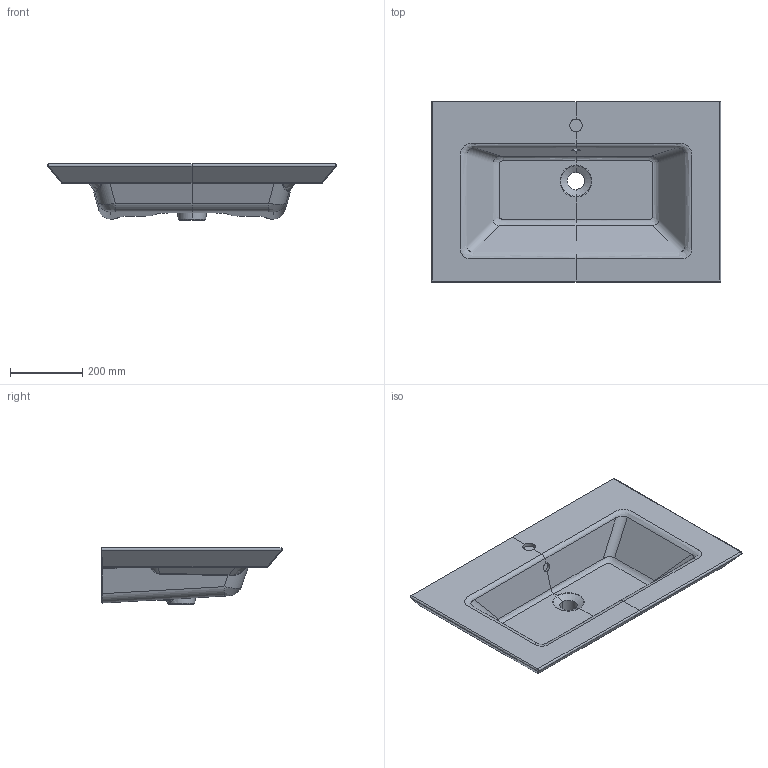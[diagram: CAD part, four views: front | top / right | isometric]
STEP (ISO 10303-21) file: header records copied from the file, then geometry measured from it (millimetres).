
FILE_DESCRIPTION(/* description */ (''),/* implementation_level */ '2;1');
FILE_NAME(/* name */ '415380_Legato_VWB_80.stp',/* time_stamp */ '2019-02-18T07:02:19+01:00',/* author */ (''),/* organization */ (''),/* preprocessor_version */ 'ST-DEVELOPER v16',/* originating_system */ 'SIEMENS PLM Software NX 10.0',/* authorisation */ '');
FILE_SCHEMA (('AUTOMOTIVE_DESIGN { 1 0 10303 214 3 1 1 1 }'));
Length unit declared in the file: millimetre
Products named in the file (1): math227069EC3wy6
Bounding box: 800.83 x 500.42 x 155 mm (x, y, z)
Volume: 20023910.3 mm3; surface area: 1111755.2 mm2
Topology: 1 solids, 1 shells, 231 faces, 591 edges, 352 vertices
Faces by surface type: bspline 100, cylinder 56, plane 49, extrusion 12, sphere 8, torus 4, cone 2
Full cylindrical faces by diameter (mm): 35 x1
Entity records: 13354 total; most frequent: CARTESIAN_POINT 8813, ORIENTED_EDGE 1156, DIRECTION 636, EDGE_CURVE 578, VERTEX_POINT 351, B_SPLINE_CURVE_WITH_KNOTS 300, AXIS2_PLACEMENT_3D 254, EDGE_LOOP 235
